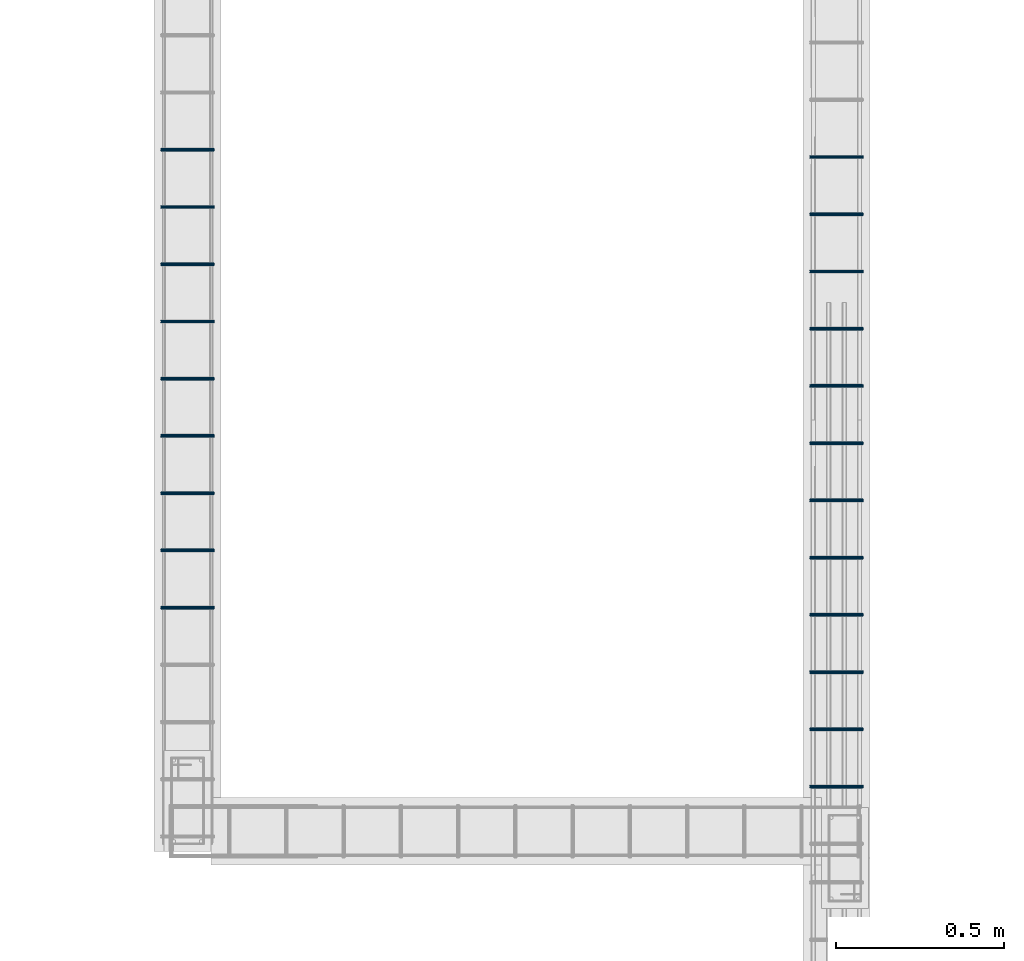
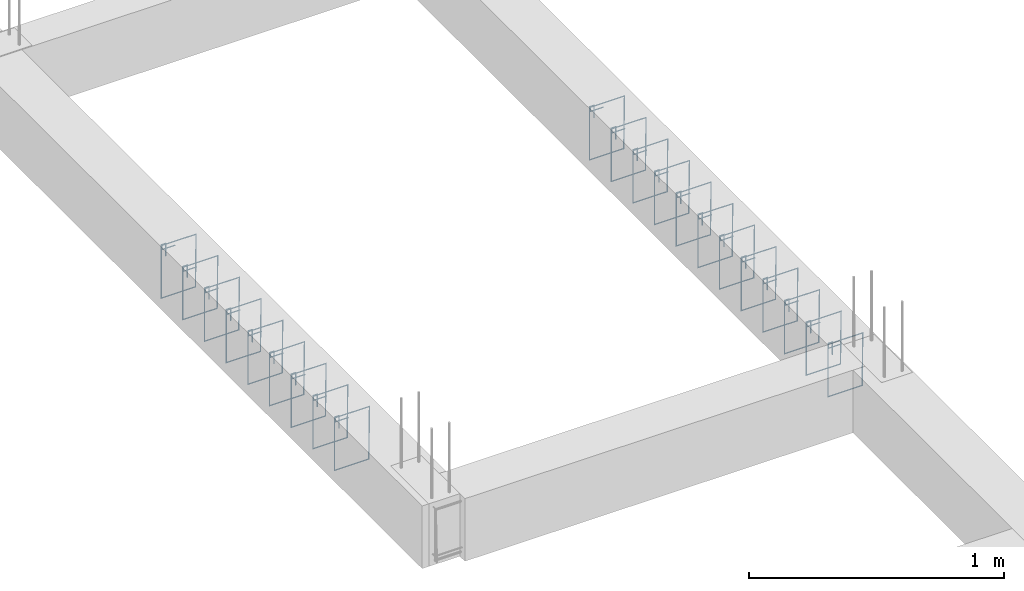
# One storey, part 55 of 150: 21 reinforcing bars.
"""IFC4 building model written with IfcOpenShell, lengths in centimetres."""

from ifc_helpers import new_model, entity, si_unit, derived_unit, frame, origin_with_axes, place, context, project, spatial, source, transform, mapped, element, save


model = new_model("IFC4")

# Units and contexts
model_context = context("Model", 3, precision=1e-05, world=origin_with_axes(), identifier="Body")
ifc_project = project(units=[si_unit("LENGTHUNIT", "METRE", prefix="CENTI"), si_unit("VOLUMEUNIT", "CUBIC_METRE"), si_unit("AREAUNIT", "SQUARE_METRE"), si_unit("POWERUNIT", "WATT"), si_unit("LUMINOUSFLUXUNIT", "LUMEN"), si_unit("ELECTRICCURRENTUNIT", "AMPERE"), si_unit("PRESSUREUNIT", "PASCAL", prefix="KILO"), si_unit("MASSUNIT", "GRAM", prefix="KILO"), si_unit("PLANEANGLEUNIT", "RADIAN"), derived_unit("VOLUMETRICFLOWRATEUNIT", [(si_unit("LENGTHUNIT", "METRE"), 3), (si_unit("TIMEUNIT", "SECOND"), -1)])], contexts=[model_context])

# Site, building, storey
site_placement = place(None, frame((-4000.0, 0.0, 0.0), z_axis=(0.0, 0.0, 1.0), x_axis=(1.0, 0.0, 0.0)))
site = spatial("IfcSite", under=ifc_project, at=site_placement, Name="PADRÃO")
building_placement = place(site_placement, frame((0.0, 0.0, -14.0)))
building = spatial("IfcBuilding", under=site, at=building_placement, Name="CRECHE PRÉ-ESCOLA TIPO 2")
placement = place(building_placement, origin_with_axes())
storey_placement = place(placement, frame((0.0, 0.0, 30.0), z_axis=(0.0, 0.0, 1.0), x_axis=(1.0, 0.0, 0.0)))
storey = spatial("IfcBuildingStorey", under=building, at=storey_placement, Name="VIGA BALDRAME", CompositionType="ELEMENT", Elevation=16.0)

# Reinforcing bars
shared_shape_1 = source(origin_with_axes(), model_context, "Body", "AdvancedSweptSolid", [
    entity("IfcSweptDiskSolid", entity("IfcCompositeCurve", [entity("IfcCompositeCurveSegment", "CONTINUOUS", True, entity("IfcPolyline", [entity("IfcCartesianPoint", [2.0, -6.0, 0.0]), entity("IfcCartesianPoint", [2.0, 0.0, 0.0])])), entity("IfcCompositeCurveSegment", "CONTINUOUS", True, entity("IfcPolyline", [entity("IfcCartesianPoint", [2.0, 0.0, 0.0]), entity("IfcCartesianPoint", [0.0, 0.0, 0.0])])), entity("IfcCompositeCurveSegment", "CONTINUOUS", True, entity("IfcPolyline", [entity("IfcCartesianPoint", [0.0, 0.0, 0.0]), entity("IfcCartesianPoint", [0.0, -25.5, 0.0])])), entity("IfcCompositeCurveSegment", "CONTINUOUS", True, entity("IfcPolyline", [entity("IfcCartesianPoint", [0.0, -25.5, 0.0]), entity("IfcCartesianPoint", [15.5, -25.5, 0.0])])), entity("IfcCompositeCurveSegment", "CONTINUOUS", True, entity("IfcPolyline", [entity("IfcCartesianPoint", [15.5, -25.5, 0.0]), entity("IfcCartesianPoint", [15.5, 0.0, 0.5])])), entity("IfcCompositeCurveSegment", "CONTINUOUS", True, entity("IfcPolyline", [entity("IfcCartesianPoint", [15.5, 0.0, 0.5]), entity("IfcCartesianPoint", [0.0, 0.0, 0.5])])), entity("IfcCompositeCurveSegment", "CONTINUOUS", True, entity("IfcPolyline", [entity("IfcCartesianPoint", [0.0, 0.0, 0.5]), entity("IfcCartesianPoint", [0.0, -2.0, 0.5])])), entity("IfcCompositeCurveSegment", "CONTINUOUS", True, entity("IfcPolyline", [entity("IfcCartesianPoint", [0.0, -2.0, 0.5]), entity("IfcCartesianPoint", [6.0, -2.0, 0.5])]))], False), 0.25),
])
for number, where, z_axis, x_axis, name in (
    (1, (3128.25, 1530.02, -2.25), (0.0, -1.0, 0.0), (1.0, 0.0, 0.0), "V216 - Estribo"),
    (2, (3128.25, 1547.02, -2.25), (0.0, -1.0, 0.0), (1.0, 0.0, 0.0), "V216 - Estribo"),
    (3, (3128.25, 1564.02, -2.25), (0.0, -1.0, 0.0), (1.0, 0.0, 0.0), "V216 - Estribo"),
    (4, (3128.25, 1581.02, -2.25), (0.0, -1.0, 0.0), (1.0, 0.0, 0.0), "V216 - Estribo"),
    (5, (3128.25, 1598.02, -2.25), (0.0, -1.0, 0.0), (1.0, 0.0, 0.0), "V216 - Estribo"),
    (6, (3128.25, 1496.02, -2.25), (0.0, -1.0, 0.0), (1.0, 0.0, 0.0), "V216 - Estribo"),
    (7, (3128.25, 1411.02, -2.25), (0.0, -1.0, 0.0), (1.0, 0.0, 0.0), "V216 - Estribo"),
    (8, (3128.25, 1428.02, -2.25), (0.0, -1.0, 0.0), (1.0, 0.0, 0.0), "V216 - Estribo"),
    (9, (3128.25, 1445.02, -2.25), (0.0, -1.0, 0.0), (1.0, 0.0, 0.0), "V216 - Estribo"),
    (10, (3128.25, 1462.02, -2.25), (0.0, -1.0, 0.0), (1.0, 0.0, 0.0), "V216 - Estribo"),
    (11, (3128.25, 1479.02, -2.25), (0.0, -1.0, 0.0), (1.0, 0.0, 0.0), "V216 - Estribo"),
    (12, (3128.25, 1513.02, -2.25), (0.0, -1.0, 0.0), (1.0, 0.0, 0.0), "V216 - Estribo"),
):
    element("IfcReinforcingBar", number, at=place(storey_placement, frame(where, z_axis=z_axis, x_axis=x_axis)), inside=storey, Name=name, BarLength=0.0, CrossSectionArea=1.9634954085e-05, NominalDiameter=0.5, PredefinedType="MAIN", context=model_context, shape_type="MappedRepresentation", body=[
        mapped(shared_shape_1, transform((0.0, 0.0, 0.0), scale=1.0)),
    ])
shared_shape_2 = source(origin_with_axes(), model_context, "Body", "AdvancedSweptSolid", [
    entity("IfcSweptDiskSolid", entity("IfcCompositeCurve", [entity("IfcCompositeCurveSegment", "CONTINUOUS", True, entity("IfcPolyline", [entity("IfcCartesianPoint", [2.0, -6.0, 0.0]), entity("IfcCartesianPoint", [2.0, 0.0, 0.0])])), entity("IfcCompositeCurveSegment", "CONTINUOUS", True, entity("IfcPolyline", [entity("IfcCartesianPoint", [2.0, 0.0, 0.0]), entity("IfcCartesianPoint", [0.0, 0.0, 0.0])])), entity("IfcCompositeCurveSegment", "CONTINUOUS", True, entity("IfcPolyline", [entity("IfcCartesianPoint", [0.0, 0.0, 0.0]), entity("IfcCartesianPoint", [0.0, -25.5, 0.0])])), entity("IfcCompositeCurveSegment", "CONTINUOUS", True, entity("IfcPolyline", [entity("IfcCartesianPoint", [0.0, -25.5, 0.0]), entity("IfcCartesianPoint", [15.5, -25.5, 0.0])])), entity("IfcCompositeCurveSegment", "CONTINUOUS", True, entity("IfcPolyline", [entity("IfcCartesianPoint", [15.5, -25.5, 0.0]), entity("IfcCartesianPoint", [15.5, 0.0, 0.5])])), entity("IfcCompositeCurveSegment", "CONTINUOUS", True, entity("IfcPolyline", [entity("IfcCartesianPoint", [15.5, 0.0, 0.5]), entity("IfcCartesianPoint", [0.0, 0.0, 0.5])])), entity("IfcCompositeCurveSegment", "CONTINUOUS", True, entity("IfcPolyline", [entity("IfcCartesianPoint", [0.0, 0.0, 0.5]), entity("IfcCartesianPoint", [0.0, -2.0, 0.5])])), entity("IfcCompositeCurveSegment", "CONTINUOUS", True, entity("IfcPolyline", [entity("IfcCartesianPoint", [0.0, -2.0, 0.5]), entity("IfcCartesianPoint", [6.0, -2.0, 0.5])]))], False), 0.25),
])
for number, where, z_axis, x_axis, name in (
    (13, (2935.49, 1566.175, -2.25), (0.0, -1.0, 0.0), (1.0, 0.0, 0.0), "V211 - Estribo"),
    (14, (2935.49, 1583.175, -2.25), (0.0, -1.0, 0.0), (1.0, 0.0, 0.0), "V211 - Estribo"),
    (15, (2935.49, 1600.175, -2.25), (0.0, -1.0, 0.0), (1.0, 0.0, 0.0), "V211 - Estribo"),
    (16, (2935.49, 1464.175, -2.25), (0.0, -1.0, 0.0), (1.0, 0.0, 0.0), "V211 - Estribo"),
    (17, (2935.49, 1481.175, -2.25), (0.0, -1.0, 0.0), (1.0, 0.0, 0.0), "V211 - Estribo"),
    (18, (2935.49, 1498.175, -2.25), (0.0, -1.0, 0.0), (1.0, 0.0, 0.0), "V211 - Estribo"),
    (19, (2935.49, 1515.175, -2.25), (0.0, -1.0, 0.0), (1.0, 0.0, 0.0), "V211 - Estribo"),
    (20, (2935.49, 1532.175, -2.25), (0.0, -1.0, 0.0), (1.0, 0.0, 0.0), "V211 - Estribo"),
    (21, (2935.49, 1549.175, -2.25), (0.0, -1.0, 0.0), (1.0, 0.0, 0.0), "V211 - Estribo"),
):
    element("IfcReinforcingBar", number, at=place(storey_placement, frame(where, z_axis=z_axis, x_axis=x_axis)), inside=storey, Name=name, BarLength=0.0, CrossSectionArea=1.9634954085e-05, NominalDiameter=0.5, PredefinedType="MAIN", context=model_context, shape_type="MappedRepresentation", body=[
        mapped(shared_shape_2, transform((0.0, 0.0, 0.0), scale=1.0)),
    ])

save(model, "model.ifc")
